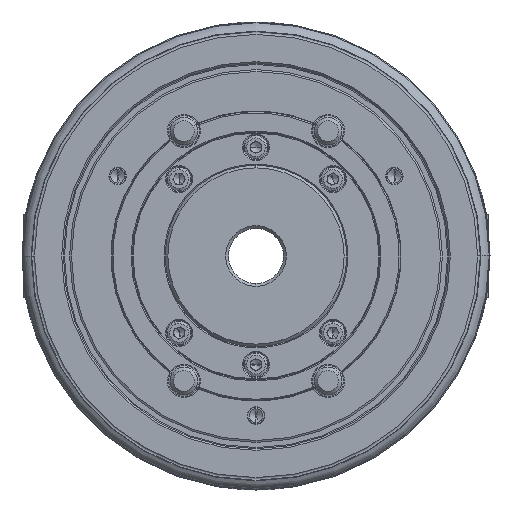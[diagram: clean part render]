
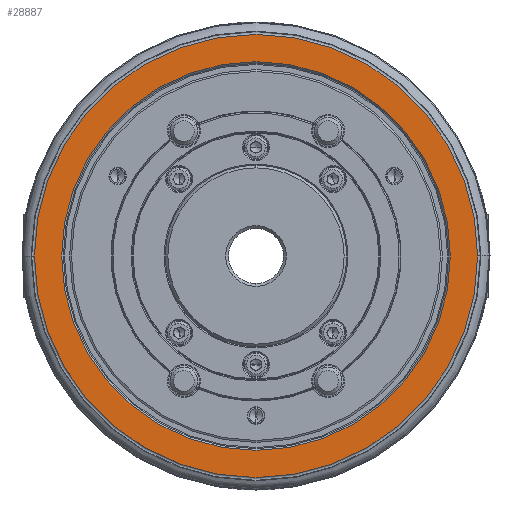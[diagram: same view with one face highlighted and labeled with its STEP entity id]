
A CAD part, left-side view. The second image highlights one B-rep face of the part: STEP entity #28887.
In plain terms, the highlighted planar face has unit normal (-1, 0, 0).
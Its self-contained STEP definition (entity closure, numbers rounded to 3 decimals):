
#236 = PLANE ( 'NONE',  #51957 ) ;
#764 = VERTEX_POINT ( 'NONE', #23475 ) ;
#3239 = ORIENTED_EDGE ( 'NONE', *, *, #3411, .T. ) ;
#3411 = EDGE_CURVE ( 'NONE', #31045, #3710, #61841, .T. ) ;
#3710 = VERTEX_POINT ( 'NONE', #14990 ) ;
#4482 = FACE_OUTER_BOUND ( 'NONE', #12789, .T. ) ;
#5451 = AXIS2_PLACEMENT_3D ( 'NONE', #63607, #53278, #35354 ) ;
#6249 = DIRECTION ( 'NONE',  ( 1., 0., 0. ) ) ;
#8517 = CARTESIAN_POINT ( 'NONE',  ( -81., 0., -70.6 ) ) ;
#8896 = VERTEX_POINT ( 'NONE', #57640 ) ;
#10209 = CARTESIAN_POINT ( 'NONE',  ( -81., 0., -70.6 ) ) ;
#12789 = EDGE_LOOP ( 'NONE', ( #49302, #29512 ) ) ;
#14990 = CARTESIAN_POINT ( 'NONE',  ( -81., 0., 70.6 ) ) ;
#21736 = AXIS2_PLACEMENT_3D ( 'NONE', #44353, #32912, #49715 ) ;
#22330 = DIRECTION ( 'NONE',  ( 0., 0., -1. ) ) ;
#23475 = CARTESIAN_POINT ( 'NONE',  ( -81., -80.5, 0. ) ) ;
#23915 = CARTESIAN_POINT ( 'NONE',  ( -81., 0., 0. ) ) ;
#27767 = EDGE_CURVE ( 'NONE', #8896, #764, #51844, .T. ) ;
#27818 = DIRECTION ( 'NONE',  ( -1., 0., 0. ) ) ;
#28887 = ADVANCED_FACE ( 'NONE', ( #4482, #39682 ), #236, .T. ) ;
#28912 = AXIS2_PLACEMENT_3D ( 'NONE', #58623, #6249, #22330 ) ;
#29512 = ORIENTED_EDGE ( 'NONE', *, *, #38439, .F. ) ;
#31045 = VERTEX_POINT ( 'NONE', #8517 ) ;
#32912 = DIRECTION ( 'NONE',  ( 1., 0., 0. ) ) ;
#35354 = DIRECTION ( 'NONE',  ( 0., 1., 0. ) ) ;
#38439 = EDGE_CURVE ( 'NONE', #764, #8896, #61985, .T. ) ;
#39682 = FACE_BOUND ( 'NONE', #55514, .T. ) ;
#40439 = DIRECTION ( 'NONE',  ( 0., 0., 1. ) ) ;
#44353 = CARTESIAN_POINT ( 'NONE',  ( -81., 0., 0. ) ) ;
#46854 = DIRECTION ( 'NONE',  ( 1., 0., 0. ) ) ;
#49302 = ORIENTED_EDGE ( 'NONE', *, *, #27767, .F. ) ;
#49715 = DIRECTION ( 'NONE',  ( 0., 1., 0. ) ) ;
#51844 = CIRCLE ( 'NONE', #5451, 80.5 ) ;
#51957 = AXIS2_PLACEMENT_3D ( 'NONE', #10209, #27818, #40439 ) ;
#53278 = DIRECTION ( 'NONE',  ( 1., 0., 0. ) ) ;
#55514 = EDGE_LOOP ( 'NONE', ( #64458, #3239 ) ) ;
#55595 = CIRCLE ( 'NONE', #67831, 70.6 ) ;
#57640 = CARTESIAN_POINT ( 'NONE',  ( -81., 80.5, 0. ) ) ;
#58623 = CARTESIAN_POINT ( 'NONE',  ( -81., 0., 0. ) ) ;
#61841 = CIRCLE ( 'NONE', #28912, 70.6 ) ;
#61985 = CIRCLE ( 'NONE', #21736, 80.5 ) ;
#63607 = CARTESIAN_POINT ( 'NONE',  ( -81., 0., 0. ) ) ;
#64458 = ORIENTED_EDGE ( 'NONE', *, *, #64834, .T. ) ;
#64834 = EDGE_CURVE ( 'NONE', #3710, #31045, #55595, .T. ) ;
#67831 = AXIS2_PLACEMENT_3D ( 'NONE', #23915, #46854, #70141 ) ;
#70141 = DIRECTION ( 'NONE',  ( 0., 0., -1. ) ) ;
